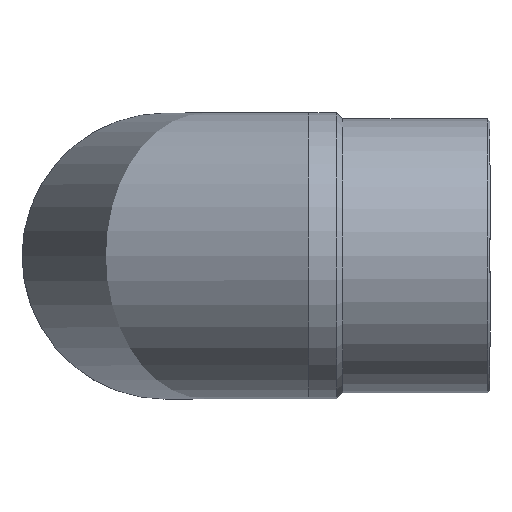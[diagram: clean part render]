
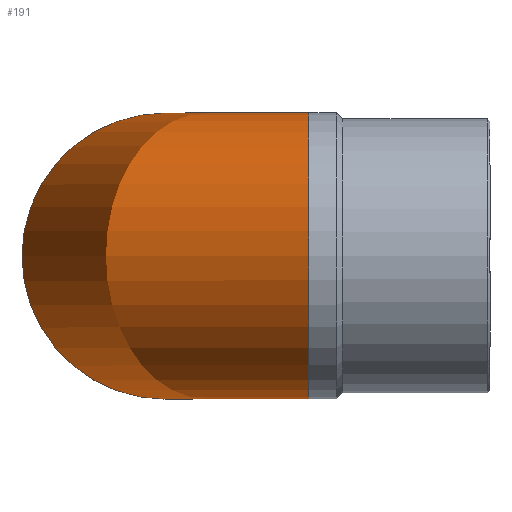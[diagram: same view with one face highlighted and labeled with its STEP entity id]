
A CAD part, top view. The second image highlights one B-rep face of the part: STEP entity #191.
In plain terms, the highlighted toroidal (fillet/blend) face has major radius 118 mm and minor radius 117.5 mm.
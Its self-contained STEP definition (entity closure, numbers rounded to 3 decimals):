
#20=TOROIDAL_SURFACE('',#231,118.,117.5);
#59=ORIENTED_EDGE('',*,*,#77,.F.);
#60=ORIENTED_EDGE('',*,*,#79,.T.);
#77=EDGE_CURVE('',#96,#96,#114,.F.);
#79=EDGE_CURVE('',#98,#98,#116,.F.);
#96=VERTEX_POINT('',#312);
#98=VERTEX_POINT('',#318);
#114=CIRCLE('',#217,117.5);
#116=CIRCLE('',#221,117.5);
#142=EDGE_LOOP('',(#59));
#143=EDGE_LOOP('',(#60));
#169=FACE_BOUND('',#142,.T.);
#170=FACE_BOUND('',#143,.T.);
#191=ADVANCED_FACE('',(#169,#170),#20,.T.);
#217=AXIS2_PLACEMENT_3D('',#311,#256,#257);
#221=AXIS2_PLACEMENT_3D('',#317,#264,#265);
#231=AXIS2_PLACEMENT_3D('',#373,#284,#285);
#256=DIRECTION('',(-1.,0.,0.));
#257=DIRECTION('',(0.,0.,-1.));
#264=DIRECTION('',(0.,0.,-1.));
#265=DIRECTION('',(1.,0.,0.));
#284=DIRECTION('',(0.,1.,0.));
#285=DIRECTION('',(0.,0.,1.));
#311=CARTESIAN_POINT('',(118.,0.,267.));
#312=CARTESIAN_POINT('',(118.,0.,149.5));
#317=CARTESIAN_POINT('',(0.,0.,149.));
#318=CARTESIAN_POINT('',(117.5,0.,149.));
#373=CARTESIAN_POINT('',(118.,0.,149.));
